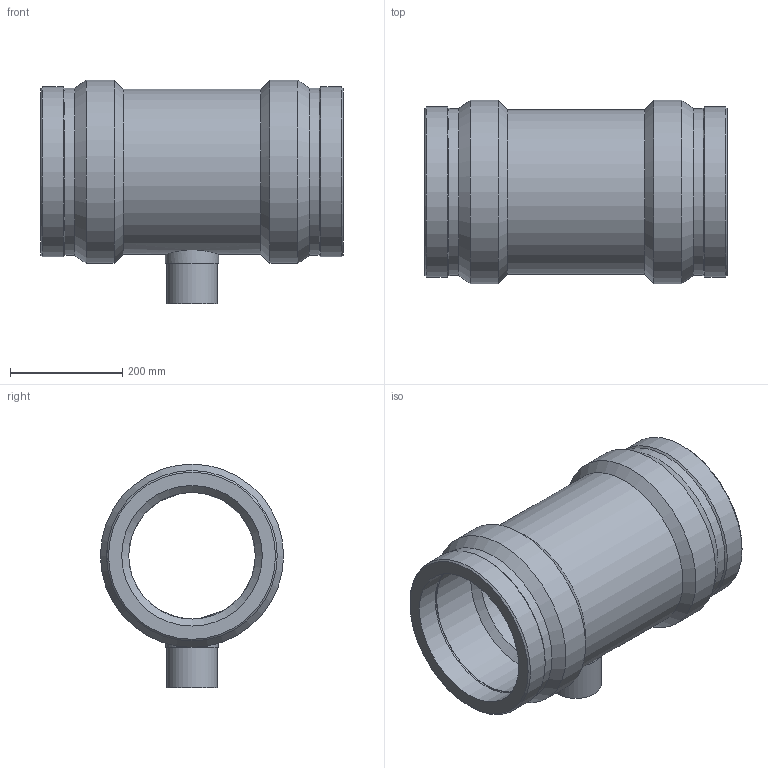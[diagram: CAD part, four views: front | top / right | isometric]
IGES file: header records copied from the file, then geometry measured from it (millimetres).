
Global section: file name: 491404250090.ipt; native system: Autodesk Inventor 2015; preprocessor: unknown; author: KIM; date: 20171106.093906; units: millimetre
Bounding box: 538 x 326 x 398 mm (x, y, z)
Volume: 15159728.9 mm3; surface area: 1037830.3 mm2
Topology: 1 solids, 1 shells, 45 faces, 101 edges, 66 vertices
Faces by surface type: plane 12, revolution 12, cylinder 11, cone 10
Full cylindrical faces by diameter (mm): 4 x2, 90 x1, 94.5 x1, 293.4 x1, 297.116 x2, 303.18 x2, 326 x2
